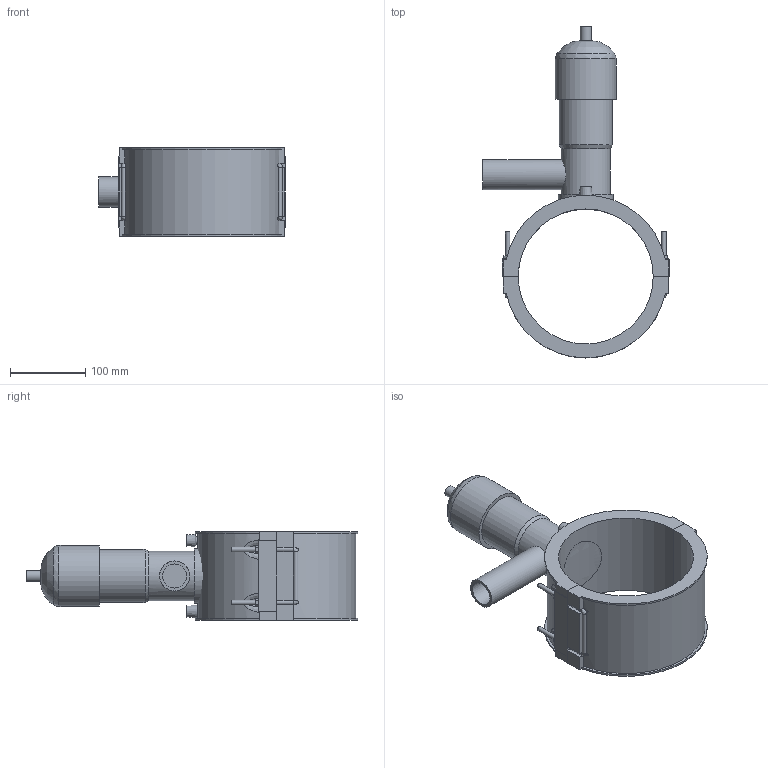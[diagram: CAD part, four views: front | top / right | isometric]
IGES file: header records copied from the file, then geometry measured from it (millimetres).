
Global section: file name: 495404180040.ipt; native system: Autodesk Inventor 2015; preprocessor: unknown; author: KIM; date: 20171106.094303; units: millimetre
Bounding box: 248 x 442.46 x 118 mm (x, y, z)
Volume: 2134014.7 mm3; surface area: 282249.4 mm2
Topology: 3 solids, 5 shells, 157 faces, 388 edges, 246 vertices
Faces by surface type: plane 93, cylinder 29, revolution 16, bspline 12, cone 7
Full cylindrical faces by diameter (mm): 4 x2, 6 x8, 14.64 x1, 40 x1, 65.88 x1, 70.76 x1, 73.2 x1, 81.333 x1
